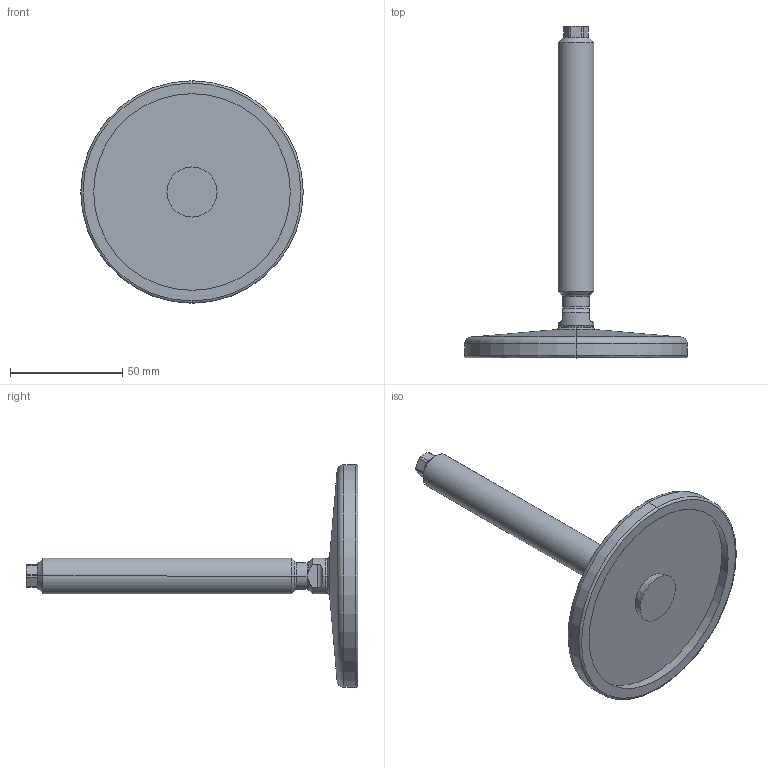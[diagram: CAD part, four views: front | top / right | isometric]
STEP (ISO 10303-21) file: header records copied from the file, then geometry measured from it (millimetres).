
FILE_DESCRIPTION (( 'STEP AP214' ), '1' );
FILE_NAME ('21-100-M16-125-D0-V.step', '2020-10-02T17:36:41', ( '' ), ( '' ), 'SwSTEP 2.0', 'SolidWorks 2019', '' );
FILE_SCHEMA (( 'AUTOMOTIVE_DESIGN' ));
Length unit declared in the file: millimetre
Products named in the file (3): WB21_Spindel_V^WB21_V_M16-125; WB21_Fußteller 21^WB21_V_D0-100-R10-B7 (M8 M10_M12_M16); 21-100-M16-125-D0-V
Assembly tree (2 placements, depth 2):
  21-100-M16-125-D0-V
    WB21_Fußteller 21^WB21_V_D0-100-R10-B7 (M8 M10_M12_M16)
    WB21_Spindel_V^WB21_V_M16-125
Bounding box: 99 x 147.64 x 99 mm (x, y, z)
Volume: 79409 mm3; surface area: 26786.2 mm2
Topology: 2 solids, 2 shells, 79 faces, 177 edges, 105 vertices
Faces by surface type: cylinder 23, cone 21, plane 21, torus 10, sphere 4
Entity records: 2438 total; most frequent: CARTESIAN_POINT 522, DIRECTION 406, ORIENTED_EDGE 354, EDGE_CURVE 177, AXIS2_PLACEMENT_3D 173, VERTEX_POINT 105, CIRCLE 89, EDGE_LOOP 82
